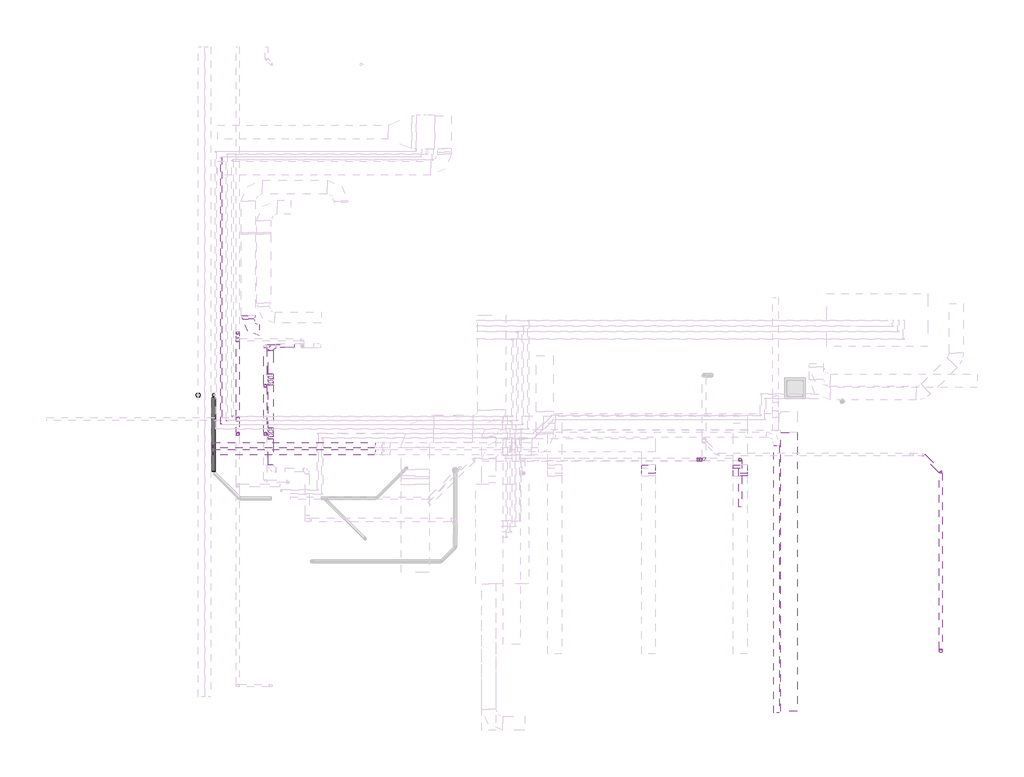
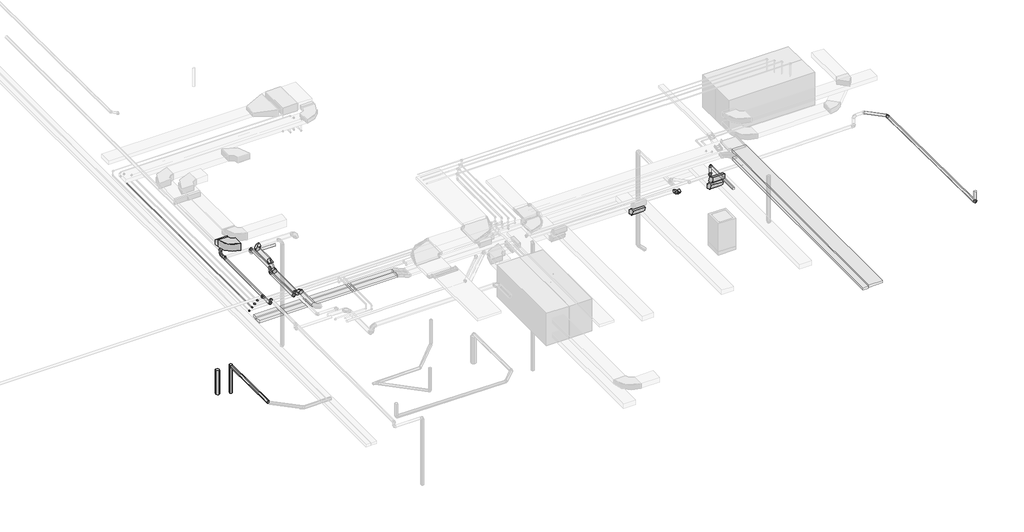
# One storey, part 3 of 10: 22 pipe fittings, 22 pipe segments, 10 duct fittings, 6 duct segments, 4 cable carrier segments.
"""IFC4 building model written with IfcOpenShell, lengths in millimetres."""

from ifc_helpers import new_model, si_unit, point, frame, frame_2d, origin, place, context, project, spatial, polyline, circle_curve, trimmed, segment, composite_curve, outline, extrude, transform, mapped, element, save
from components import duct_fitting_a9c6f05c, m_codo_rectangular_radio_apt_1_w_3d36b4d6, m_codo_rectangular_radio_imp_1_w_f5781791, m_codo_redondo_ext_1_d_74319309, m_codo_redondo_ext_1_d_7c243904, pipe_fitting_0b7fd5a4, pipe_fitting_aab77541, pipe_fitting_87aeffad, pipe_fitting_2d09eb79, pipe_fitting_d39ce7e0, pipe_fitting_c88cb194, pipe_fitting_0776bb1a, pipe_fitting_255c6e3b, pipe_fitting_85c3688f, pipe_fitting_e05c7e6e, pipe_fitting_58cf89ae

model = new_model("IFC4")

# Units and contexts
model_context = context("Model", 3, world=origin())
ifc_project = project(units=[si_unit("LENGTHUNIT", "METRE", prefix="MILLI")], contexts=[model_context])

# Site, building, storey
site = spatial("IfcSite", under=ifc_project)
building = spatial("IfcBuilding", under=site)
storey = spatial("IfcBuildingStorey", under=building, Name="Nivell 00 P00_PB", Elevation=6330.0)

# Cable carrier segments
placement = place(None, origin())
element("IfcCableCarrierSegment", 1, ObjectType="EL", at=placement, inside=storey, context=model_context, shape_type="SweptSolid", body=[
    extrude(outline(polyline([(24970.9823979, -15101.0486096), (25570.9823979, -15101.0486096), (25570.9823979, -25138.881498), (24970.9823979, -25138.881498), (24970.9823979, -15101.0486096)])), frame((0.0, 0.0, 10460.0), z_axis=(0.0, 0.0, 1.0), x_axis=(1.0, 0.0, 0.0)), (0.0, 0.0, 1.0), 100.0),
])
element("IfcCableCarrierSegment", 2, ObjectType="EL", at=placement, inside=storey, context=model_context, shape_type="SweptSolid", body=[
    extrude(outline(polyline([(10385.488838, -15711.0333178), (10385.488838, -15911.0333178), (4548.267826, -15911.0333178), (4548.267826, -15711.0333178), (10385.488838, -15711.0333178)])), frame((0.0, 0.0, 10430.0), z_axis=(0.0, 0.0, 1.0), x_axis=(1.0, 0.0, 0.0)), (0.0, 0.0, 1.0), 100.0),
])
element("IfcCableCarrierSegment", 3, ObjectType="EL", at=placement, inside=storey, context=model_context, shape_type="SweptSolid", body=[
    extrude(outline(polyline([(4548.267826, -15661.0333178), (4548.267826, -15461.0333178), (10385.488838, -15461.0333178), (10385.488838, -15661.0333178), (4548.267826, -15661.0333178)])), frame((0.0, 0.0, 10430.0), z_axis=(0.0, 0.0, 1.0), x_axis=(1.0, 0.0, 0.0)), (0.0, 0.0, 1.0), 100.0),
])
element("IfcCableCarrierSegment", 4, ObjectType="EL", at=placement, inside=storey, context=model_context, shape_type="SweptSolid", body=[
    extrude(outline(polyline([(24721.5359498, -15566.1353243), (24921.5359498, -15566.1353243), (24921.5359498, -25191.1353243), (24721.5359498, -25191.1353243), (24721.5359498, -15566.1353243)])), frame((0.0, 0.0, 10460.0), z_axis=(0.0, 0.0, 1.0), x_axis=(1.0, 0.0, 0.0)), (0.0, 0.0, 1.0), 100.0),
])

# Duct fittings
duct_fitting_shape = duct_fitting_a9c6f05c(model_context)
element("IfcDuctFitting", 5, ObjectType="M_Transición rectangular - Ángulo : EXT_45 graus", at=placement, inside=storey, context=model_context, shape_type="MappedRepresentation", body=[
    mapped(duct_fitting_shape, transform((5815.0942859, -11021.0059601, 10660.0), x_axis=(0.0, 1.0, 0.0), y_axis=(-1.0, 0.0, 0.0), z_axis=(0.0, 0.0, 1.0))),
])
m_codo_rectangular_radio_apt_1_w_shape = m_codo_rectangular_radio_apt_1_w_3d36b4d6(model_context)
element("IfcDuctFitting", 6, ObjectType="M_Codo rectangular - Radio : EXT_1 W", at=placement, inside=storey, context=model_context, shape_type="MappedRepresentation", body=[
    mapped(m_codo_rectangular_radio_apt_1_w_shape, transform((5815.0942859, -11421.0059601, 10660.0), x_axis=(0.0, -1.0, 0.0), y_axis=(1.0, 0.0, 0.0), z_axis=(0.0, 0.0, 1.0))),
])
m_codo_rectangular_radio_imp_1_w_shape = m_codo_rectangular_radio_imp_1_w_f5781791(model_context)
element("IfcDuctFitting", 7, ObjectType="M_Codo rectangular - Radio : IMP_1 W", at=placement, inside=storey, context=model_context, shape_type="MappedRepresentation", body=[
    mapped(m_codo_rectangular_radio_imp_1_w_shape, transform((20213.0832095, -16473.9966623, 10230.0), x_axis=(0.0, 0.0, -1.0), y_axis=(0.0, 1.0, 0.0), z_axis=(1.0, 0.0, 0.0))),
])
element("IfcDuctFitting", 8, ObjectType="M_Codo rectangular - Radio : IMP_1 W", at=placement, inside=storey, context=model_context, shape_type="MappedRepresentation", body=[
    mapped(m_codo_rectangular_radio_imp_1_w_shape, transform((23514.812091, -16473.9966623, 10730.0), x_axis=(0.0, 1.0, 0.0), y_axis=(0.0, 0.0, -1.0), z_axis=(-1.0, 0.0, 0.0))),
])
element("IfcDuctFitting", 9, ObjectType="M_Codo rectangular - Radio : IMP_1 W", at=placement, inside=storey, context=model_context, shape_type="MappedRepresentation", body=[
    mapped(m_codo_rectangular_radio_imp_1_w_shape, transform((23514.812091, -16473.9966623, 10230.0), x_axis=(0.0, 0.0, -1.0), y_axis=(0.0, 1.0, 0.0), z_axis=(1.0, 0.0, 0.0))),
])
m_codo_redondo_ext_1_d_shape = m_codo_redondo_ext_1_d_74319309(model_context)
element("IfcDuctFitting", 10, ObjectType="M_Codo redondo : EXT_1 D", at=placement, inside=storey, context=model_context, shape_type="MappedRepresentation", body=[
    mapped(m_codo_redondo_ext_1_d_shape, transform((6627.2855995, -11984.7059364, 10742.5), x_axis=(-1.0, 0.0, 0.0), y_axis=(0.0, -1.0, 0.0), z_axis=(0.0, 0.0, 1.0))),
])
m_codo_redondo_ext_1_d_2_shape = m_codo_redondo_ext_1_d_7c243904(model_context)
element("IfcDuctFitting", 11, ObjectType="M_Codo redondo : EXT_1 D", at=placement, inside=storey, context=model_context, shape_type="MappedRepresentation", body=[
    mapped(m_codo_redondo_ext_1_d_2_shape, transform((6627.2855995, -13074.126822, 10742.5), x_axis=(0.0, 0.7071067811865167, 0.7071067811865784), y_axis=(0.0, 0.7071067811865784, -0.7071067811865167), z_axis=(-1.0, 0.0, 0.0))),
])
element("IfcDuctFitting", 12, ObjectType="M_Codo redondo : EXT_1 D", at=placement, inside=storey, context=model_context, shape_type="MappedRepresentation", body=[
    mapped(m_codo_redondo_ext_1_d_2_shape, transform((6627.2855995, -15261.292168, 10742.5), x_axis=(0.0, 1.0, 0.0), y_axis=(0.0, 0.0, -1.0), z_axis=(-1.0, 0.0, 0.0))),
])
element("IfcDuctFitting", 13, ObjectType="M_Codo redondo : EXT_1 D", at=placement, inside=storey, context=model_context, shape_type="MappedRepresentation", body=[
    mapped(m_codo_redondo_ext_1_d_2_shape, transform((6627.2855995, -13324.126822, 10492.5), x_axis=(0.0, -0.7071067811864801, -0.7071067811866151), y_axis=(0.0, -0.7071067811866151, 0.7071067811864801), z_axis=(-1.0, 0.0, 0.0))),
])
element("IfcDuctFitting", 14, ObjectType="M_Codo redondo : EXT_1 D", at=placement, inside=storey, context=model_context, shape_type="MappedRepresentation", body=[
    mapped(m_codo_redondo_ext_1_d_2_shape, transform((6627.2855995, -15011.292168, 10492.5), x_axis=(0.0, 0.7071067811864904, -0.7071067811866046), y_axis=(0.0, 0.7071067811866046, 0.7071067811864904), z_axis=(1.0, 0.0, 0.0))),
])

# Duct segments
element("IfcDuctSegment", 15, ObjectType="EXT_Acer Galvanitzat - Rígid", at=placement, inside=storey, context=model_context, shape_type="SweptSolid", body=[
    extrude(outline(composite_curve([segment(trimmed(circle_curve(frame_2d((10742.5, 6627.2855995)), 87.5), [point((10742.5, 6714.7855995))], [point((10830.0, 6627.2855995))], False, "CARTESIAN"), True, "CONTINUOUS"), segment(trimmed(circle_curve(frame_2d((10742.5, 6627.2855995)), 87.5), [point((10830.0, 6627.2855995))], [point((10742.5, 6539.7855995))], False, "CARTESIAN"), True, "CONTINUOUS"), segment(trimmed(circle_curve(frame_2d((10742.5, 6627.2855995)), 87.5), [point((10742.5, 6539.7855995))], [point((10655.0, 6627.2855995))], False, "CARTESIAN"), True, "CONTINUOUS"), segment(trimmed(circle_curve(frame_2d((10742.5, 6627.2855995)), 87.5), [point((10655.0, 6627.2855995))], [point((10742.5, 6714.7855995))], False, "CARTESIAN"), True, "CONTINUOUS")], self_intersect=False)), frame((0.0, -13001.6394485, 0.0), z_axis=(0.0, 1.0, 0.0), x_axis=(0.0, 0.0, 1.0)), (0.0, 0.0, 1.0), 841.9335121),
])
element("IfcDuctSegment", 16, ObjectType="EXT_Acer Galvanitzat - Rígid", at=placement, inside=storey, context=model_context, shape_type="SweptSolid", body=[
    extrude(outline(composite_curve([segment(trimmed(circle_curve(frame_2d((10492.5, 6627.2855995)), 87.5), [point((10492.5, 6539.7855995))], [point((10405.0, 6627.2855995))], False, "CARTESIAN"), True, "CONTINUOUS"), segment(trimmed(circle_curve(frame_2d((10492.5, 6627.2855995)), 87.5), [point((10405.0, 6627.2855995))], [point((10492.5, 6714.7855995))], False, "CARTESIAN"), True, "CONTINUOUS"), segment(trimmed(circle_curve(frame_2d((10492.5, 6627.2855995)), 87.5), [point((10492.5, 6714.7855995))], [point((10580.0, 6627.2855995))], False, "CARTESIAN"), True, "CONTINUOUS"), segment(trimmed(circle_curve(frame_2d((10492.5, 6627.2855995)), 87.5), [point((10580.0, 6627.2855995))], [point((10492.5, 6539.7855995))], False, "CARTESIAN"), True, "CONTINUOUS")], self_intersect=False)), frame((0.0, -14938.8047946, 0.0), z_axis=(0.0, 1.0, 0.0), x_axis=(0.0, 0.0, 1.0)), (0.0, 0.0, 1.0), 1542.1905992),
])
element("IfcDuctSegment", 17, ObjectType="EXT_Acer Galvanitzat - Rígid", at=placement, inside=storey, context=model_context, shape_type="SweptSolid", body=[
    extrude(outline(composite_curve([segment(trimmed(circle_curve(frame_2d((0.0, 87.4999999)), 87.5), [point((87.5, 87.4999999))], [point((0.0, 0.0))], False, "CARTESIAN"), True, "CONTINUOUS"), segment(trimmed(circle_curve(frame_2d((0.0, 87.4999999)), 87.5), [point((0.0, 0.0))], [point((-87.5, 87.4999999))], False, "CARTESIAN"), True, "CONTINUOUS"), segment(trimmed(circle_curve(frame_2d((0.0, 87.4999999)), 87.5), [point((-87.5, 87.4999999))], [point((0.0, 175.0))], False, "CARTESIAN"), True, "CONTINUOUS"), segment(trimmed(circle_curve(frame_2d((0.0, 87.4999999)), 87.5), [point((0.0, 175.0))], [point((87.5, 87.4999999))], False, "CARTESIAN"), True, "CONTINUOUS")], self_intersect=False)), frame((6627.2855995, -13334.742352, 10605.6281566), z_axis=(0.0, 0.7071067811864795, 0.7071067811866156), x_axis=(1.0, 0.0, 0.0)), (0.0, 0.0, 1.0), 208.5786438),
])
element("IfcDuctSegment", 18, ObjectType="EXT_Acer Galvanitzat - Rígid", at=placement, inside=storey, context=model_context, shape_type="SweptSolid", body=[
    extrude(outline(composite_curve([segment(trimmed(circle_curve(frame_2d((10742.5, 6627.2855995)), 87.5), [point((10742.5, 6714.7855995))], [point((10830.0, 6627.2855995))], False, "CARTESIAN"), True, "CONTINUOUS"), segment(trimmed(circle_curve(frame_2d((10742.5, 6627.2855995)), 87.5), [point((10830.0, 6627.2855995))], [point((10742.5, 6539.7855995))], False, "CARTESIAN"), True, "CONTINUOUS"), segment(trimmed(circle_curve(frame_2d((10742.5, 6627.2855995)), 87.5), [point((10742.5, 6539.7855995))], [point((10655.0, 6627.2855995))], False, "CARTESIAN"), True, "CONTINUOUS"), segment(trimmed(circle_curve(frame_2d((10742.5, 6627.2855995)), 87.5), [point((10655.0, 6627.2855995))], [point((10742.5, 6714.7855995))], False, "CARTESIAN"), True, "CONTINUOUS")], self_intersect=False)), frame((0.0, -16272.012168, 0.0), z_axis=(0.0, 1.0, 0.0), x_axis=(0.0, 0.0, 1.0)), (0.0, 0.0, 1.0), 938.2326266),
])
element("IfcDuctSegment", 19, ObjectType="EXT_Acer Galvanitzat - Rígid", at=placement, inside=storey, context=model_context, shape_type="SweptSolid", body=[
    extrude(outline(composite_curve([segment(trimmed(circle_curve(frame_2d((0.0, -87.5)), 87.5), [point((-87.5, -87.5))], [point((0.0, 0.0))], False, "CARTESIAN"), True, "CONTINUOUS"), segment(trimmed(circle_curve(frame_2d((0.0, -87.5)), 87.5), [point((0.0, 0.0))], [point((87.5, -87.5))], False, "CARTESIAN"), True, "CONTINUOUS"), segment(trimmed(circle_curve(frame_2d((0.0, -87.5)), 87.5), [point((87.5, -87.5))], [point((0.0, -175.0000001))], False, "CARTESIAN"), True, "CONTINUOUS"), segment(trimmed(circle_curve(frame_2d((0.0, -87.5)), 87.5), [point((0.0, -175.0000001))], [point((-87.5, -87.5))], False, "CARTESIAN"), True, "CONTINUOUS")], self_intersect=False)), frame((6627.2855995, -15000.6766379, 10605.6281566), z_axis=(0.0, -0.7071067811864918, 0.7071067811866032), x_axis=(1.0, 0.0, 0.0)), (0.0, 0.0, 1.0), 208.5786438),
])
element("IfcDuctSegment", 20, ObjectType="IMP_Fibra de vidre rígida", at=placement, inside=storey, context=model_context, shape_type="SweptSolid", body=[
    extrude(outline(polyline([(23764.812091, -16373.9966623), (23764.812091, -16573.9966623), (23264.812091, -16573.9966623), (23264.812091, -16373.9966623), (23764.812091, -16373.9966623)])), frame((0.0, 0.0, 10430.0), z_axis=(0.0, 0.0, 1.0), x_axis=(1.0, 0.0, 0.0)), (0.0, 0.0, 1.0), 100.0),
])

# Pipe fittings
pipe_fitting_shape = pipe_fitting_0b7fd5a4(model_context)
element("IfcPipeFitting", 21, ObjectType="M_Codo - Genérico : Estándar", at=placement, inside=storey, context=model_context, shape_type="MappedRepresentation", body=[
    mapped(pipe_fitting_shape, transform((30730.8092343, -16533.033758, 10896.4697357), x_axis=(0.0, 0.9999500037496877, -0.009999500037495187), y_axis=(-0.9999914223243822, -4.141685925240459e-05, -0.004141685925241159), z_axis=(-0.004141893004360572, 0.009999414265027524, 0.9999414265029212))),
])
pipe_fitting_2_shape = pipe_fitting_aab77541(model_context)
element("IfcPipeFitting", 22, ObjectType="M_Codo - Genérico : Estándar", at=placement, inside=storey, context=model_context, shape_type="MappedRepresentation", body=[
    mapped(pipe_fitting_2_shape, transform((30730.8092343, -22976.7269984, 10960.9066681), x_axis=(0.0, 0.0, -1.0), y_axis=(0.0, 1.0, 0.0), z_axis=(1.0, 0.0, 0.0))),
])
pipe_fitting_3_shape = pipe_fitting_87aeffad(model_context)
element("IfcPipeFitting", 23, ObjectType="M_Codo - Genérico : Estándar", at=placement, inside=storey, context=model_context, shape_type="MappedRepresentation", body=[
    mapped(pipe_fitting_3_shape, transform((23514.9203808, -16070.9933177, 10930.0), x_axis=(0.0, 1.0, 0.0), y_axis=(0.0, 0.0, -1.0), z_axis=(-1.0, 0.0, 0.0))),
])
element("IfcPipeFitting", 24, ObjectType="M_Codo - Genérico : Estándar", at=placement, inside=storey, context=model_context, shape_type="MappedRepresentation", body=[
    mapped(pipe_fitting_3_shape, transform((23514.9203808, -16070.9933177, 10530.0), x_axis=(0.0, 0.0, -1.0), y_axis=(-1.0, 0.0, 0.0), z_axis=(0.0, 1.0, 0.0))),
])
element("IfcPipeFitting", 25, ObjectType="M_Codo - Genérico : Estándar", at=placement, inside=storey, context=model_context, shape_type="MappedRepresentation", body=[
    mapped(pipe_fitting_3_shape, transform((6429.6948456, -11995.3314651, 10729.2), x_axis=(0.0, 0.0, 1.0), y_axis=(0.0, -1.0, 0.0), z_axis=(1.0, 0.0, 0.0))),
])
element("IfcPipeFitting", 26, ObjectType="M_Codo - Genérico : Estándar", at=placement, inside=storey, context=model_context, shape_type="MappedRepresentation", body=[
    mapped(pipe_fitting_3_shape, transform((6429.6948456, -13421.2456555, 10729.2), x_axis=(0.0, 0.0, 1.0), y_axis=(0.0, 1.0, 0.0), z_axis=(-1.0, 0.0, 0.0))),
])
element("IfcPipeFitting", 27, ObjectType="M_Codo - Genérico : Estándar", at=placement, inside=storey, context=model_context, shape_type="MappedRepresentation", body=[
    mapped(pipe_fitting_3_shape, transform((5436.8687791, -11514.9374893, 10526.072913), x_axis=(0.0, 1.0, 0.0), y_axis=(0.0, 0.0, 1.0), z_axis=(1.0, 0.0, 0.0))),
])
element("IfcPipeFitting", 28, ObjectType="M_Codo - Genérico : Estándar", at=placement, inside=storey, context=model_context, shape_type="MappedRepresentation", body=[
    mapped(pipe_fitting_3_shape, transform((5436.8741871, -11514.9374893, 10729.2), x_axis=(0.0, -1.0, 0.0), y_axis=(0.0, 0.0, -1.0), z_axis=(1.0, 0.0, 0.0))),
])
element("IfcPipeFitting", 29, ObjectType="M_Codo - Genérico : Estándar", at=placement, inside=storey, context=model_context, shape_type="MappedRepresentation", body=[
    mapped(pipe_fitting_3_shape, transform((5436.8741871, -15164.7581051, 10729.2), x_axis=(0.0, 1.0, 0.0), y_axis=(0.0, 0.0, -1.0), z_axis=(-1.0, 0.0, 0.0))),
])
element("IfcPipeFitting", 30, ObjectType="M_Codo - Genérico : Estándar", at=placement, inside=storey, context=model_context, shape_type="MappedRepresentation", body=[
    mapped(pipe_fitting_3_shape, transform((5436.8687791, -15164.7581051, 10526.1436888), x_axis=(0.0, 0.0, -1.0), y_axis=(0.0, 1.0, 0.0), z_axis=(1.0, 0.0, 0.0))),
])
element("IfcPipeFitting", 31, ObjectType="M_Codo - Genérico : Estándar", at=placement, inside=storey, context=model_context, shape_type="MappedRepresentation", body=[
    mapped(pipe_fitting_3_shape, transform((6429.6948456, -15156.6519055, 10729.2), x_axis=(0.0, 1.0, 0.0), y_axis=(0.0, 0.0, -1.0), z_axis=(-1.0, 0.0, 0.0))),
])
element("IfcPipeFitting", 32, ObjectType="M_Codo - Genérico : Estándar", at=placement, inside=storey, context=model_context, shape_type="MappedRepresentation", body=[
    mapped(pipe_fitting_3_shape, transform((6429.6948456, -13421.2456555, 10519.2), x_axis=(0.0, 0.0, -1.0), y_axis=(0.0, -1.0, 0.0), z_axis=(-1.0, 0.0, 0.0))),
])
element("IfcPipeFitting", 33, ObjectType="M_Codo - Genérico : Estándar", at=placement, inside=storey, context=model_context, shape_type="MappedRepresentation", body=[
    mapped(pipe_fitting_3_shape, transform((6429.6948456, -15156.6519055, 10519.2), x_axis=(0.0, 0.0, -1.0), y_axis=(0.0, 1.0, 0.0), z_axis=(1.0, 0.0, 0.0))),
])
pipe_fitting_4_shape = pipe_fitting_2d09eb79(model_context)
element("IfcPipeFitting", 34, ObjectType="M_Te - Genérica : Estándar", at=placement, inside=storey, context=model_context, shape_type="MappedRepresentation", body=[
    mapped(pipe_fitting_4_shape, transform((5436.8687791, -14623.0018551, 10526.1436888), x_axis=(0.0, 1.0, 0.0), y_axis=(1.0, 0.0, 0.0), z_axis=(0.0, 0.0, -1.0))),
])
pipe_fitting_5_shape = pipe_fitting_d39ce7e0(model_context)
element("IfcPipeFitting", 35, ObjectType="M_Te - Genérica : Estándar", at=placement, inside=storey, context=model_context, shape_type="MappedRepresentation", body=[
    mapped(pipe_fitting_5_shape, transform((5436.8687791, -11764.9374389, 10526.1083009), x_axis=(0.0, 0.9999998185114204, -0.0006024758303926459), y_axis=(-0.9999985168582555, 1.03763782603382e-06, 0.0017222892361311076), z_axis=(0.0017222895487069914, 0.0006024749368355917, 0.9999983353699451))),
])
pipe_fitting_6_shape = pipe_fitting_c88cb194(model_context)
element("IfcPipeFitting", 36, ObjectType="M_Codo - Genérico : Estándar", at=placement, inside=storey, context=model_context, shape_type="MappedRepresentation", body=[
    mapped(pipe_fitting_6_shape, transform((5245.3079323, -14523.9393544, 10360.0), x_axis=(-4.171211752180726e-05, -0.9999999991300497, 0.0), y_axis=(0.9999999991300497, -4.171211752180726e-05, 0.0), z_axis=(0.0, 0.0, 1.0))),
])
pipe_fitting_7_shape = pipe_fitting_0776bb1a(model_context)
element("IfcPipeFitting", 37, ObjectType="M_Codo - Genérico : Estándar", at=placement, inside=storey, context=model_context, shape_type="MappedRepresentation", body=[
    mapped(pipe_fitting_7_shape, transform((5045.3003506, -14674.3941472, 10360.0), x_axis=(-4.1712139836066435e-05, -0.9999999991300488, 0.0), y_axis=(0.9999999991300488, -4.1712139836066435e-05, 0.0), z_axis=(0.0, 0.0, 1.0))),
])
pipe_fitting_8_shape = pipe_fitting_255c6e3b(model_context)
element("IfcPipeFitting", 38, ObjectType="M_Codo - Genérico : Estándar", at=placement, inside=storey, context=model_context, shape_type="MappedRepresentation", body=[
    mapped(pipe_fitting_8_shape, transform((4845.2924933, -14824.7868587, 10367.5), x_axis=(-4.21468633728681e-05, -0.999999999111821, 0.0), y_axis=(0.999999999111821, -4.21468633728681e-05, 0.0), z_axis=(0.0, 0.0, 1.0))),
])
pipe_fitting_9_shape = pipe_fitting_85c3688f(model_context)
element("IfcPipeFitting", 39, ObjectType="M_Codo - Genérico : Estándar", at=placement, inside=storey, context=model_context, shape_type="MappedRepresentation", body=[
    mapped(pipe_fitting_9_shape, transform((4645.2841704, -14974.3221014, 10367.5), x_axis=(-4.213158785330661e-05, -0.9999999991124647, 0.0), y_axis=(0.9999999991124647, -4.213158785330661e-05, 0.0), z_axis=(0.0, 0.0, 1.0))),
])
pipe_fitting_10_shape = pipe_fitting_e05c7e6e(model_context)
element("IfcPipeFitting", 40, ObjectType="M_Codo - Genérico : Estándar", at=placement, inside=storey, context=model_context, shape_type="MappedRepresentation", body=[
    mapped(pipe_fitting_10_shape, transform((22211.9752462, -16076.7816597, 10226.2596238), x_axis=(0.9999500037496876, 0.0, -0.009999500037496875), y_axis=(-9.99365754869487e-05, 0.9999500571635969, -0.00999365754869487), z_axis=(0.00999900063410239, 0.009994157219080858, 0.9999000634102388))),
])
pipe_fitting_11_shape = pipe_fitting_58cf89ae(model_context)
element("IfcPipeFitting", 41, ObjectType="M_Codo - Genérico : Estándar", at=placement, inside=storey, context=model_context, shape_type="MappedRepresentation", body=[
    mapped(pipe_fitting_11_shape, transform((22095.7592944, -16076.7816597, 10227.4217833), x_axis=(-0.9999500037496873, 0.0, 0.009999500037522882), y_axis=(0.009999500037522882, 0.0, 0.9999500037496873), z_axis=(0.0, 1.0, 0.0))),
])
element("IfcPipeFitting", 42, ObjectType="M_Codo - Genérico : Estándar", at=placement, inside=storey, context=model_context, shape_type="MappedRepresentation", body=[
    mapped(pipe_fitting_11_shape, transform((21996.8029973, -16076.7816597, 10327.3726578), x_axis=(-0.7035623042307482, 0.0, 0.710633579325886), y_axis=(-0.710633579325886, 0.0, -0.7035623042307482), z_axis=(0.0, -1.0, 0.0))),
])

# Pipe segments
element("IfcPipeSegment", 43, ObjectType="PPR_CLI_Aquatherm Blue Pipe", at=placement, inside=storey, context=model_context, shape_type="SweptSolid", body=[
    extrude(outline(composite_curve([segment(trimmed(circle_curve(frame_2d((0.0, 12.5)), 12.5), [point((0.0, 25.0))], [point((12.5, 12.5))], False, "CARTESIAN"), True, "CONTINUOUS"), segment(trimmed(circle_curve(frame_2d((0.0, 12.5)), 12.5), [point((12.5, 12.5))], [point((0.0, 0.0))], False, "CARTESIAN"), True, "CONTINUOUS"), segment(trimmed(circle_curve(frame_2d((0.0, 12.5)), 12.5), [point((0.0, 0.0))], [point((-12.5, 12.5))], False, "CARTESIAN"), True, "CONTINUOUS"), segment(trimmed(circle_curve(frame_2d((0.0, 12.5)), 12.5), [point((-12.5, 12.5))], [point((0.0, 25.0))], False, "CARTESIAN"), True, "CONTINUOUS")], self_intersect=False)), frame((4832.7933632, -14804.1483924, 10367.5), z_axis=(4.214686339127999e-05, 0.999999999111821, 0.0), x_axis=(0.0, 0.0, 1.0)), (0.0, 0.0, 1.0), 9598.4743634),
])
element("IfcPipeSegment", 44, ObjectType="AN_CI", at=placement, inside=storey, context=model_context, shape_type="SweptSolid", body=[
    extrude(outline(composite_curve([segment(trimmed(circle_curve(frame_2d((10526.1436888, 5436.8687791)), 50.8), [point((10526.1436888, 5487.6687791))], [point((10576.9436888, 5436.8687791))], False, "CARTESIAN"), True, "CONTINUOUS"), segment(trimmed(circle_curve(frame_2d((10526.1436888, 5436.8687791)), 50.8), [point((10576.9436888, 5436.8687791))], [point((10526.1436888, 5386.0687791))], False, "CARTESIAN"), True, "CONTINUOUS"), segment(trimmed(circle_curve(frame_2d((10526.1436888, 5436.8687791)), 50.8), [point((10526.1436888, 5386.0687791))], [point((10475.3436888, 5436.8687791))], False, "CARTESIAN"), True, "CONTINUOUS"), segment(trimmed(circle_curve(frame_2d((10526.1436888, 5436.8687791)), 50.8), [point((10475.3436888, 5436.8687791))], [point((10526.1436888, 5487.6687791))], False, "CARTESIAN"), True, "CONTINUOUS")], self_intersect=False)), frame((0.0, -14564.2643551, 0.0), z_axis=(0.0, 1.0, 0.0), x_axis=(0.0, 0.0, 1.0)), (0.0, 0.0, 1.0), 2740.5894269),
])
element("IfcPipeSegment", 45, ObjectType="AN_CI", at=placement, inside=storey, context=model_context, shape_type="SweptSolid", body=[
    extrude(outline(composite_curve([segment(trimmed(circle_curve(frame_2d((10930.0, 23514.9203808)), 50.8), [point((10930.0, 23565.7203808))], [point((10980.8, 23514.9203808))], False, "CARTESIAN"), True, "CONTINUOUS"), segment(trimmed(circle_curve(frame_2d((10930.0, 23514.9203808)), 50.8), [point((10980.8, 23514.9203808))], [point((10930.0, 23464.1203808))], False, "CARTESIAN"), True, "CONTINUOUS"), segment(trimmed(circle_curve(frame_2d((10930.0, 23514.9203808)), 50.8), [point((10930.0, 23464.1203808))], [point((10879.2, 23514.9203808))], False, "CARTESIAN"), True, "CONTINUOUS"), segment(trimmed(circle_curve(frame_2d((10930.0, 23514.9203808)), 50.8), [point((10879.2, 23514.9203808))], [point((10930.0, 23565.7203808))], False, "CARTESIAN"), True, "CONTINUOUS")], self_intersect=False)), frame((0.0, -17780.8314123, 0.0), z_axis=(0.0, 1.0, 0.0), x_axis=(0.0, 0.0, 1.0)), (0.0, 0.0, 1.0), 1657.4505946),
])
element("IfcPipeSegment", 46, ObjectType="AN_CI", at=placement, inside=storey, context=model_context, shape_type="SweptSolid", body=[
    extrude(outline(composite_curve([segment(trimmed(circle_curve(frame_2d((-11995.3314651, 10529.2)), 50.8), [point((-11944.5314651, 10529.2))], [point((-11995.3314651, 10478.4))], False, "CARTESIAN"), True, "CONTINUOUS"), segment(trimmed(circle_curve(frame_2d((-11995.3314651, 10529.2)), 50.8), [point((-11995.3314651, 10478.4))], [point((-12046.1314651, 10529.2))], False, "CARTESIAN"), True, "CONTINUOUS"), segment(trimmed(circle_curve(frame_2d((-11995.3314651, 10529.2)), 50.8), [point((-12046.1314651, 10529.2))], [point((-11995.3314651, 10580.0))], False, "CARTESIAN"), True, "CONTINUOUS"), segment(trimmed(circle_curve(frame_2d((-11995.3314651, 10529.2)), 50.8), [point((-11995.3314651, 10580.0))], [point((-11944.5314651, 10529.2))], False, "CARTESIAN"), True, "CONTINUOUS")], self_intersect=False)), frame((6482.0823456, 0.0, 0.0), z_axis=(1.0, 0.0, 0.0), x_axis=(0.0, 1.0, 0.0)), (0.0, 0.0, 1.0), 979.579349),
])
element("IfcPipeSegment", 47, ObjectType="AN_CI", at=placement, inside=storey, context=model_context, shape_type="SweptSolid", body=[
    extrude(outline(composite_curve([segment(trimmed(circle_curve(frame_2d((10729.2, 6429.6948456)), 50.8), [point((10729.2, 6378.8948456))], [point((10678.4, 6429.6948456))], False, "CARTESIAN"), True, "CONTINUOUS"), segment(trimmed(circle_curve(frame_2d((10729.2, 6429.6948456)), 50.8), [point((10678.4, 6429.6948456))], [point((10729.2, 6480.4948456))], False, "CARTESIAN"), True, "CONTINUOUS"), segment(trimmed(circle_curve(frame_2d((10729.2, 6429.6948456)), 50.8), [point((10729.2, 6480.4948456))], [point((10780.0, 6429.6948456))], False, "CARTESIAN"), True, "CONTINUOUS"), segment(trimmed(circle_curve(frame_2d((10729.2, 6429.6948456)), 50.8), [point((10780.0, 6429.6948456))], [point((10729.2, 6378.8948456))], False, "CARTESIAN"), True, "CONTINUOUS")], self_intersect=False)), frame((0.0, -13368.8581555, 0.0), z_axis=(0.0, 1.0, 0.0), x_axis=(0.0, 0.0, 1.0)), (0.0, 0.0, 1.0), 1321.1391904),
])
element("IfcPipeSegment", 48, ObjectType="AN_CI", at=placement, inside=storey, context=model_context, shape_type="SweptSolid", body=[
    extrude(outline(composite_curve([segment(trimmed(circle_curve(frame_2d((6429.6948456, -13421.2456555)), 50.8), [point((6378.8948456, -13421.2456555))], [point((6429.6948456, -13370.4456555))], False, "CARTESIAN"), True, "CONTINUOUS"), segment(trimmed(circle_curve(frame_2d((6429.6948456, -13421.2456555)), 50.8), [point((6429.6948456, -13370.4456555))], [point((6480.4948456, -13421.2456555))], False, "CARTESIAN"), True, "CONTINUOUS"), segment(trimmed(circle_curve(frame_2d((6429.6948456, -13421.2456555)), 50.8), [point((6480.4948456, -13421.2456555))], [point((6429.6948456, -13472.0456555))], False, "CARTESIAN"), True, "CONTINUOUS"), segment(trimmed(circle_curve(frame_2d((6429.6948456, -13421.2456555)), 50.8), [point((6429.6948456, -13472.0456555))], [point((6378.8948456, -13421.2456555))], False, "CARTESIAN"), True, "CONTINUOUS")], self_intersect=False)), frame((0.0, 0.0, 10571.5875), z_axis=(0.0, 0.0, 1.0), x_axis=(1.0, 0.0, 0.0)), (0.0, 0.0, 1.0), 105.225),
])
element("IfcPipeSegment", 49, ObjectType="PVC_Baixant", at=placement, inside=storey, context=model_context, shape_type="SweptSolid", body=[
    extrude(outline(composite_curve([segment(trimmed(circle_curve(frame_2d((0.0, 55.0)), 55.0), [point((-55.0, 55.0000002))], [point((2e-07, 110.0))], False, "CARTESIAN"), True, "CONTINUOUS"), segment(trimmed(circle_curve(frame_2d((0.0, 55.0)), 55.0), [point((2e-07, 110.0))], [point((55.0, 54.9999999))], False, "CARTESIAN"), True, "CONTINUOUS"), segment(trimmed(circle_curve(frame_2d((0.0, 55.0)), 55.0), [point((55.0, 54.9999999))], [point((-1e-07, 0.0))], False, "CARTESIAN"), True, "CONTINUOUS"), segment(trimmed(circle_curve(frame_2d((0.0, 55.0)), 55.0), [point((-1e-07, 0.0))], [point((-55.0, 55.0000002))], False, "CARTESIAN"), True, "CONTINUOUS")], self_intersect=False)), frame((30730.8092343, -23031.7269983, 11023.2145743), z_axis=(4.433172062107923e-05, -6.119111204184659e-05, 0.9999999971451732), x_axis=(0.9999999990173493, 2.7127100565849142e-09, -4.433172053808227e-05)), (0.0, 0.0, 1.0), 406.7820617),
])
element("IfcPipeSegment", 50, ObjectType="PVC_Baixant", at=placement, inside=storey, context=model_context, shape_type="SweptSolid", body=[
    extrude(outline(composite_curve([segment(trimmed(circle_curve(frame_2d((0.0, -55.0)), 55.0), [point((55.0, -55.0))], [point((0.0, -110.0))], False, "CARTESIAN"), True, "CONTINUOUS"), segment(trimmed(circle_curve(frame_2d((0.0, -55.0)), 55.0), [point((0.0, -110.0))], [point((-55.0, -55.0))], False, "CARTESIAN"), True, "CONTINUOUS"), segment(trimmed(circle_curve(frame_2d((0.0, -55.0)), 55.0), [point((-55.0, -55.0))], [point((0.0, 0.0))], False, "CARTESIAN"), True, "CONTINUOUS"), segment(trimmed(circle_curve(frame_2d((0.0, -55.0)), 55.0), [point((0.0, 0.0))], [point((55.0, -55.0))], False, "CARTESIAN"), True, "CONTINUOUS")], self_intersect=False)), frame((30730.8092343, -16558.5505213, 10951.7276532), z_axis=(0.0, -0.9999500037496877, 0.009999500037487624), x_axis=(1.0, 0.0, 0.0)), (0.0, 0.0, 1.0), 6355.6361061),
])
element("IfcPipeSegment", 51, ObjectType="PVC_Baixant", at=placement, inside=storey, context=model_context, shape_type="SweptSolid", body=[
    extrude(outline(composite_curve([segment(trimmed(circle_curve(frame_2d((0.0, -55.0000001)), 55.0), [point((54.9972505, -54.4500551))], [point((0.549945, -109.9972506))], False, "CARTESIAN"), True, "CONTINUOUS"), segment(trimmed(circle_curve(frame_2d((0.0, -55.0000001)), 55.0), [point((0.549945, -109.9972506))], [point((-54.9972504, -55.5499451))], False, "CARTESIAN"), True, "CONTINUOUS"), segment(trimmed(circle_curve(frame_2d((0.0, -55.0000001)), 55.0), [point((-54.9972504, -55.5499451))], [point((-0.549945, -0.0027496))], False, "CARTESIAN"), True, "CONTINUOUS"), segment(trimmed(circle_curve(frame_2d((0.0, -55.0000001)), 55.0), [point((-0.549945, -0.0027496))], [point((54.9972505, -54.4500551))], False, "CARTESIAN"), True, "CONTINUOUS")], self_intersect=False)), frame((30115.1910456, -15916.6378297, 10942.7580806), z_axis=(0.7070714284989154, -0.7070714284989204, 0.009999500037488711), x_axis=(0.7071421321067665, 0.7070007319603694, -0.009998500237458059)), (0.0, 0.0, 1.0), 844.5910823),
])
element("IfcPipeSegment", 52, ObjectType="AN_CI", at=placement, inside=storey, context=model_context, shape_type="SweptSolid", body=[
    extrude(outline(composite_curve([segment(trimmed(circle_curve(frame_2d((23514.9203808, -16070.9933177)), 50.8), [point((23565.7203808, -16070.9933177))], [point((23514.9203808, -16121.7933177))], False, "CARTESIAN"), True, "CONTINUOUS"), segment(trimmed(circle_curve(frame_2d((23514.9203808, -16070.9933177)), 50.8), [point((23514.9203808, -16121.7933177))], [point((23464.1203808, -16070.9933177))], False, "CARTESIAN"), True, "CONTINUOUS"), segment(trimmed(circle_curve(frame_2d((23514.9203808, -16070.9933177)), 50.8), [point((23464.1203808, -16070.9933177))], [point((23514.9203808, -16020.1933177))], False, "CARTESIAN"), True, "CONTINUOUS"), segment(trimmed(circle_curve(frame_2d((23514.9203808, -16070.9933177)), 50.8), [point((23514.9203808, -16020.1933177))], [point((23565.7203808, -16070.9933177))], False, "CARTESIAN"), True, "CONTINUOUS")], self_intersect=False)), frame((0.0, 0.0, 10582.3875), z_axis=(0.0, 0.0, 1.0), x_axis=(1.0, 0.0, 0.0)), (0.0, 0.0, 1.0), 295.225),
])
element("IfcPipeSegment", 53, ObjectType="AN_CI", at=placement, inside=storey, context=model_context, shape_type="SweptSolid", body=[
    extrude(outline(composite_curve([segment(trimmed(circle_curve(frame_2d((6429.6948456, -11995.3314651)), 50.8), [point((6378.8948456, -11995.3314651))], [point((6429.6948456, -11944.5314651))], False, "CARTESIAN"), True, "CONTINUOUS"), segment(trimmed(circle_curve(frame_2d((6429.6948456, -11995.3314651)), 50.8), [point((6429.6948456, -11944.5314651))], [point((6480.4948456, -11995.3314651))], False, "CARTESIAN"), True, "CONTINUOUS"), segment(trimmed(circle_curve(frame_2d((6429.6948456, -11995.3314651)), 50.8), [point((6480.4948456, -11995.3314651))], [point((6429.6948456, -12046.1314651))], False, "CARTESIAN"), True, "CONTINUOUS"), segment(trimmed(circle_curve(frame_2d((6429.6948456, -11995.3314651)), 50.8), [point((6429.6948456, -12046.1314651))], [point((6378.8948456, -11995.3314651))], False, "CARTESIAN"), True, "CONTINUOUS")], self_intersect=False)), frame((0.0, 0.0, 10581.5875), z_axis=(0.0, 0.0, 1.0), x_axis=(1.0, 0.0, 0.0)), (0.0, 0.0, 1.0), 95.225),
])
element("IfcPipeSegment", 54, ObjectType="AN_CI", at=placement, inside=storey, context=model_context, shape_type="SweptSolid", body=[
    extrude(outline(composite_curve([segment(trimmed(circle_curve(frame_2d((0.0, 50.8)), 50.8), [point((-50.8, 50.8))], [point((0.0, 101.6))], False, "CARTESIAN"), True, "CONTINUOUS"), segment(trimmed(circle_curve(frame_2d((0.0, 50.8)), 50.8), [point((0.0, 101.6))], [point((50.8, 50.8))], False, "CARTESIAN"), True, "CONTINUOUS"), segment(trimmed(circle_curve(frame_2d((0.0, 50.8)), 50.8), [point((50.8, 50.8))], [point((0.0, 0.0))], False, "CARTESIAN"), True, "CONTINUOUS"), segment(trimmed(circle_curve(frame_2d((0.0, 50.8)), 50.8), [point((0.0, 0.0))], [point((-50.8, 50.8))], False, "CARTESIAN"), True, "CONTINUOUS")], self_intersect=False)), frame((5436.8687791, -11565.7374893, 10578.460413), z_axis=(5.498575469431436e-05, 0.0, 0.9999999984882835), x_axis=(0.9999999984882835, 0.0, -5.498575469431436e-05)), (0.0, 0.0, 1.0), 98.3520872),
])
element("IfcPipeSegment", 55, ObjectType="AN_CI", at=placement, inside=storey, context=model_context, shape_type="SweptSolid", body=[
    extrude(outline(composite_curve([segment(trimmed(circle_curve(frame_2d((10526.072913, 5436.8687791)), 50.8), [point((10526.072913, 5487.6687791))], [point((10576.872913, 5436.8687791))], False, "CARTESIAN"), True, "CONTINUOUS"), segment(trimmed(circle_curve(frame_2d((10526.072913, 5436.8687791)), 50.8), [point((10576.872913, 5436.8687791))], [point((10526.072913, 5386.0687791))], False, "CARTESIAN"), True, "CONTINUOUS"), segment(trimmed(circle_curve(frame_2d((10526.072913, 5436.8687791)), 50.8), [point((10526.072913, 5386.0687791))], [point((10475.272913, 5436.8687791))], False, "CARTESIAN"), True, "CONTINUOUS"), segment(trimmed(circle_curve(frame_2d((10526.072913, 5436.8687791)), 50.8), [point((10475.272913, 5436.8687791))], [point((10526.072913, 5487.6687791))], False, "CARTESIAN"), True, "CONTINUOUS")], self_intersect=False)), frame((0.0, -11706.1999495, 0.0), z_axis=(0.0, 1.0, 0.0), x_axis=(0.0, 0.0, 1.0)), (0.0, 0.0, 1.0), 138.8749603),
])
element("IfcPipeSegment", 56, ObjectType="AN_CI", at=placement, inside=storey, context=model_context, shape_type="SweptSolid", body=[
    extrude(outline(composite_curve([segment(trimmed(circle_curve(frame_2d((10526.1436888, 5436.8687791)), 50.8), [point((10526.1436888, 5386.0687791))], [point((10475.3436888, 5436.8687791))], False, "CARTESIAN"), True, "CONTINUOUS"), segment(trimmed(circle_curve(frame_2d((10526.1436888, 5436.8687791)), 50.8), [point((10475.3436888, 5436.8687791))], [point((10526.1436888, 5487.6687791))], False, "CARTESIAN"), True, "CONTINUOUS"), segment(trimmed(circle_curve(frame_2d((10526.1436888, 5436.8687791)), 50.8), [point((10526.1436888, 5487.6687791))], [point((10576.9436888, 5436.8687791))], False, "CARTESIAN"), True, "CONTINUOUS"), segment(trimmed(circle_curve(frame_2d((10526.1436888, 5436.8687791)), 50.8), [point((10576.9436888, 5436.8687791))], [point((10526.1436888, 5386.0687791))], False, "CARTESIAN"), True, "CONTINUOUS")], self_intersect=False)), frame((0.0, -15112.3706051, 0.0), z_axis=(0.0, 1.0, 0.0), x_axis=(0.0, 0.0, 1.0)), (0.0, 0.0, 1.0), 430.63125),
])
element("IfcPipeSegment", 57, ObjectType="AN_CI", at=placement, inside=storey, context=model_context, shape_type="SweptSolid", body=[
    extrude(outline(composite_curve([segment(trimmed(circle_curve(frame_2d((10519.2, 6429.6948456)), 50.8), [point((10519.2, 6378.8948456))], [point((10468.4, 6429.6948456))], False, "CARTESIAN"), True, "CONTINUOUS"), segment(trimmed(circle_curve(frame_2d((10519.2, 6429.6948456)), 50.8), [point((10468.4, 6429.6948456))], [point((10519.2, 6480.4948456))], False, "CARTESIAN"), True, "CONTINUOUS"), segment(trimmed(circle_curve(frame_2d((10519.2, 6429.6948456)), 50.8), [point((10519.2, 6480.4948456))], [point((10570.0, 6429.6948456))], False, "CARTESIAN"), True, "CONTINUOUS"), segment(trimmed(circle_curve(frame_2d((10519.2, 6429.6948456)), 50.8), [point((10570.0, 6429.6948456))], [point((10519.2, 6378.8948456))], False, "CARTESIAN"), True, "CONTINUOUS")], self_intersect=False)), frame((0.0, -15104.2644055, 0.0), z_axis=(0.0, 1.0, 0.0), x_axis=(0.0, 0.0, 1.0)), (0.0, 0.0, 1.0), 1630.63125),
])
element("IfcPipeSegment", 58, ObjectType="AN_CI", at=placement, inside=storey, context=model_context, shape_type="SweptSolid", body=[
    extrude(outline(composite_curve([segment(trimmed(circle_curve(frame_2d((0.0, -50.8)), 50.8), [point((-50.8, -50.8))], [point((0.0, 0.0))], False, "CARTESIAN"), True, "CONTINUOUS"), segment(trimmed(circle_curve(frame_2d((0.0, -50.8)), 50.8), [point((0.0, 0.0))], [point((50.8, -50.8))], False, "CARTESIAN"), True, "CONTINUOUS"), segment(trimmed(circle_curve(frame_2d((0.0, -50.8)), 50.8), [point((50.8, -50.8))], [point((0.0, -101.6))], False, "CARTESIAN"), True, "CONTINUOUS"), segment(trimmed(circle_curve(frame_2d((0.0, -50.8)), 50.8), [point((0.0, -101.6))], [point((-50.8, -50.8))], False, "CARTESIAN"), True, "CONTINUOUS")], self_intersect=False)), frame((5436.8687791, -15215.5581051, 10578.5311888), z_axis=(5.502535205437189e-05, 0.0, 0.9999999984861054), x_axis=(-0.9999999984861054, 0.0, 5.502535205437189e-05)), (0.0, 0.0, 1.0), 98.2813113),
])
element("IfcPipeSegment", 59, ObjectType="AN_CI", at=placement, inside=storey, context=model_context, shape_type="SweptSolid", body=[
    extrude(outline(composite_curve([segment(trimmed(circle_curve(frame_2d((6429.6948456, -15156.6519055)), 50.8), [point((6480.4948456, -15156.6519055))], [point((6429.6948456, -15207.4519055))], False, "CARTESIAN"), True, "CONTINUOUS"), segment(trimmed(circle_curve(frame_2d((6429.6948456, -15156.6519055)), 50.8), [point((6429.6948456, -15207.4519055))], [point((6378.8948456, -15156.6519055))], False, "CARTESIAN"), True, "CONTINUOUS"), segment(trimmed(circle_curve(frame_2d((6429.6948456, -15156.6519055)), 50.8), [point((6378.8948456, -15156.6519055))], [point((6429.6948456, -15105.8519055))], False, "CARTESIAN"), True, "CONTINUOUS"), segment(trimmed(circle_curve(frame_2d((6429.6948456, -15156.6519055)), 50.8), [point((6429.6948456, -15105.8519055))], [point((6480.4948456, -15156.6519055))], False, "CARTESIAN"), True, "CONTINUOUS")], self_intersect=False)), frame((0.0, 0.0, 10571.5875), z_axis=(0.0, 0.0, 1.0), x_axis=(1.0, 0.0, 0.0)), (0.0, 0.0, 1.0), 105.225),
])
element("IfcPipeSegment", 60, ObjectType="PVC_Baixant", at=placement, inside=storey, context=model_context, shape_type="SweptSolid", body=[
    extrude(outline(composite_curve([segment(trimmed(circle_curve(frame_2d((4572.3218791, -13755.9782087)), 55.0), [point((4517.3218791, -13755.9782087))], [point((4572.3218791, -13700.9782087))], False, "CARTESIAN"), True, "CONTINUOUS"), segment(trimmed(circle_curve(frame_2d((4572.3218791, -13755.9782087)), 55.0), [point((4572.3218791, -13700.9782087))], [point((4627.3218791, -13755.9782087))], False, "CARTESIAN"), True, "CONTINUOUS"), segment(trimmed(circle_curve(frame_2d((4572.3218791, -13755.9782087)), 55.0), [point((4627.3218791, -13755.9782087))], [point((4572.3218791, -13810.9782087))], False, "CARTESIAN"), True, "CONTINUOUS"), segment(trimmed(circle_curve(frame_2d((4572.3218791, -13755.9782087)), 55.0), [point((4572.3218791, -13810.9782087))], [point((4517.3218791, -13755.9782087))], False, "CARTESIAN"), True, "CONTINUOUS")], self_intersect=False)), frame((0.0, 0.0, 6004.581592), z_axis=(0.0, 0.0, 1.0), x_axis=(1.0, 0.0, 0.0)), (0.0, 0.0, 1.0), 1247.6682955),
])
element("IfcPipeSegment", 61, ObjectType="PVC_Baixant", at=placement, inside=storey, context=model_context, shape_type="SweptSolid", body=[
    extrude(outline(composite_curve([segment(trimmed(circle_curve(frame_2d((4008.5897125, -13760.66932)), 80.0), [point((3928.5897125, -13760.66932))], [point((4008.5897125, -13680.66932))], False, "CARTESIAN"), True, "CONTINUOUS"), segment(trimmed(circle_curve(frame_2d((4008.5897125, -13760.66932)), 80.0), [point((4008.5897125, -13680.66932))], [point((4088.5897125, -13760.66932))], False, "CARTESIAN"), True, "CONTINUOUS"), segment(trimmed(circle_curve(frame_2d((4008.5897125, -13760.66932)), 80.0), [point((4088.5897125, -13760.66932))], [point((4008.5897125, -13840.66932))], False, "CARTESIAN"), True, "CONTINUOUS"), segment(trimmed(circle_curve(frame_2d((4008.5897125, -13760.66932)), 80.0), [point((4008.5897125, -13840.66932))], [point((3928.5897125, -13760.66932))], False, "CARTESIAN"), True, "CONTINUOUS")], self_intersect=False)), frame((0.0, 0.0, 6158.1077136), z_axis=(0.0, 0.0, 1.0), x_axis=(1.0, 0.0, 0.0)), (0.0, 0.0, 1.0), 1068.1499832),
])
element("IfcPipeSegment", 62, ObjectType="PVC_Baixant", at=placement, inside=storey, context=model_context, shape_type="SweptSolid", body=[
    extrude(outline(composite_curve([segment(trimmed(circle_curve(frame_2d((0.0, -55.0)), 55.0), [point((54.9999999, -55.0000229))], [point((-2.29e-05, -110.0000001))], False, "CARTESIAN"), True, "CONTINUOUS"), segment(trimmed(circle_curve(frame_2d((0.0, -55.0)), 55.0), [point((-2.29e-05, -110.0000001))], [point((-55.0, -54.9999771))], False, "CARTESIAN"), True, "CONTINUOUS"), segment(trimmed(circle_curve(frame_2d((0.0, -55.0)), 55.0), [point((-55.0, -54.9999771))], [point((2.29e-05, 0.0))], False, "CARTESIAN"), True, "CONTINUOUS"), segment(trimmed(circle_curve(frame_2d((0.0, -55.0)), 55.0), [point((2.29e-05, 0.0))], [point((54.9999999, -55.0000229))], False, "CARTESIAN"), True, "CONTINUOUS")], self_intersect=False)), frame((4568.7235358, -13843.9123741, 7281.6361124), z_axis=(-4.1710032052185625e-05, -0.9999500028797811, 0.009999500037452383), x_axis=(0.9999999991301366, -4.170794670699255e-05, 4.1707946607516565e-07)), (0.0, 0.0, 1.0), 2666.489419),
])
element("IfcPipeSegment", 63, ObjectType="PVC_Baixant", at=placement, inside=storey, context=model_context, shape_type="SweptSolid", body=[
    extrude(outline(composite_curve([segment(trimmed(circle_curve(frame_2d((0.0, 62.5)), 62.5), [point((0.0, 125.0))], [point((62.5, 62.5))], False, "CARTESIAN"), True, "CONTINUOUS"), segment(trimmed(circle_curve(frame_2d((0.0, 62.5)), 62.5), [point((62.5, 62.5))], [point((0.0, 0.0))], False, "CARTESIAN"), True, "CONTINUOUS"), segment(trimmed(circle_curve(frame_2d((0.0, 62.5)), 62.5), [point((0.0, 0.0))], [point((-62.5000001, 62.5))], False, "CARTESIAN"), True, "CONTINUOUS"), segment(trimmed(circle_curve(frame_2d((0.0, 62.5)), 62.5), [point((-62.5000001, 62.5))], [point((0.0, 125.0))], False, "CARTESIAN"), True, "CONTINUOUS")], self_intersect=False)), frame((22140.5484567, -16139.2816597, 10226.9738917), z_axis=(-0.9999500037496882, 0.0, 0.009999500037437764), x_axis=(0.009999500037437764, 0.0, 0.9999500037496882)), (0.0, 0.0, 1.0), 15.410019),
])
element("IfcPipeSegment", 64, ObjectType="PVC_Baixant", at=placement, inside=storey, context=model_context, shape_type="SweptSolid", body=[
    extrude(outline(composite_curve([segment(trimmed(circle_curve(frame_2d((0.0, 62.5)), 62.5), [point((0.0, 125.0))], [point((62.5, 62.5))], False, "CARTESIAN"), True, "CONTINUOUS"), segment(trimmed(circle_curve(frame_2d((0.0, 62.5)), 62.5), [point((62.5, 62.5))], [point((0.0, 0.0))], False, "CARTESIAN"), True, "CONTINUOUS"), segment(trimmed(circle_curve(frame_2d((0.0, 62.5)), 62.5), [point((0.0, 0.0))], [point((-62.5, 62.5))], False, "CARTESIAN"), True, "CONTINUOUS"), segment(trimmed(circle_curve(frame_2d((0.0, 62.5)), 62.5), [point((-62.5, 62.5))], [point((0.0, 125.0))], False, "CARTESIAN"), True, "CONTINUOUS")], self_intersect=False)), frame((22077.547278, -16139.2816597, 10245.8168427), z_axis=(-0.7035623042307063, 0.0, 0.7106335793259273), x_axis=(0.7106335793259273, 0.0, 0.7035623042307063)), (0.0, 0.0, 1.0), 88.8794979),
])

save(model, "model.ifc")
